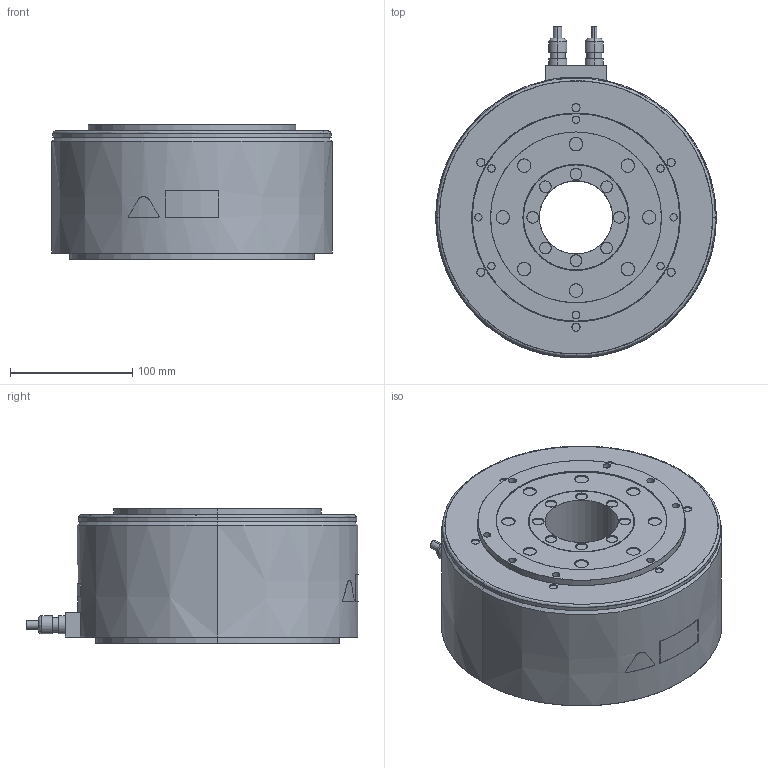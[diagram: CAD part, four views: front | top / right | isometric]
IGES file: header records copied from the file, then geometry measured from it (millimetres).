
Start section: SolidWorks IGES file using analytic representation for surfaces
Bounding box: 230 x 272.1 x 110 mm (x, y, z)
Surface area: 186657.7 mm2 (no closed solid volume)
Topology: 0 solids, 0 shells, 234 faces, 5640 edges, 5640 vertices
Faces by surface type: revolution 142, bspline 92
